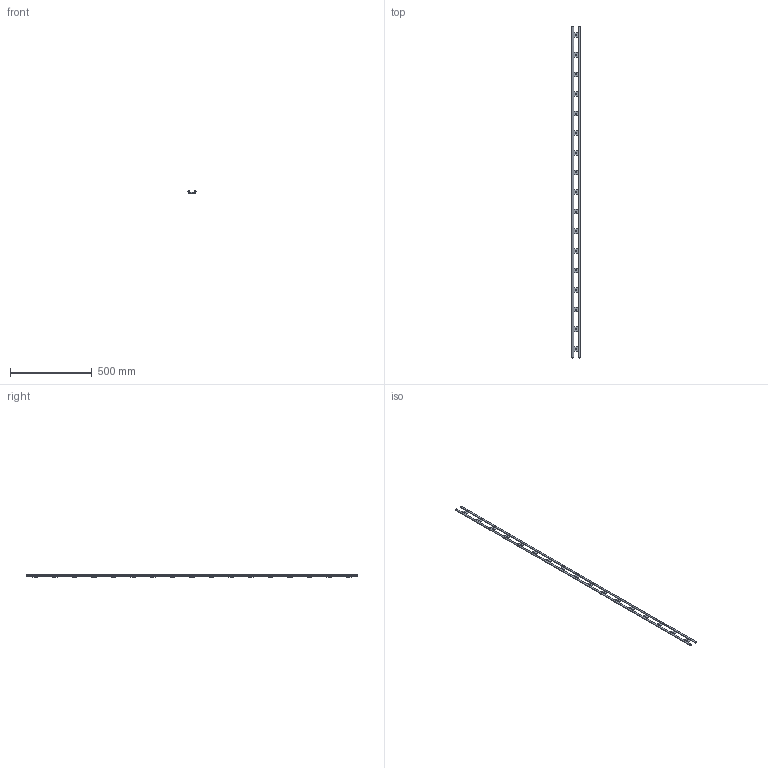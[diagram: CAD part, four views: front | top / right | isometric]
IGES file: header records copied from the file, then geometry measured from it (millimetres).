
Start section: ACIS data in IGES format
Global section: file name: Unknown; native system: ACIS; preprocessor: *IGES writer V5.2; author: unknown author; organization: unknown organization; date: 20100119.195355; units: millimetre
Bounding box: 50 x 2032 x 14 mm (x, y, z)
Surface area: 184219.4 mm2 (no closed solid volume)
Topology: 0 solids, 0 shells, 212 faces, 1196 edges, 1196 vertices
Faces by surface type: bspline 212
